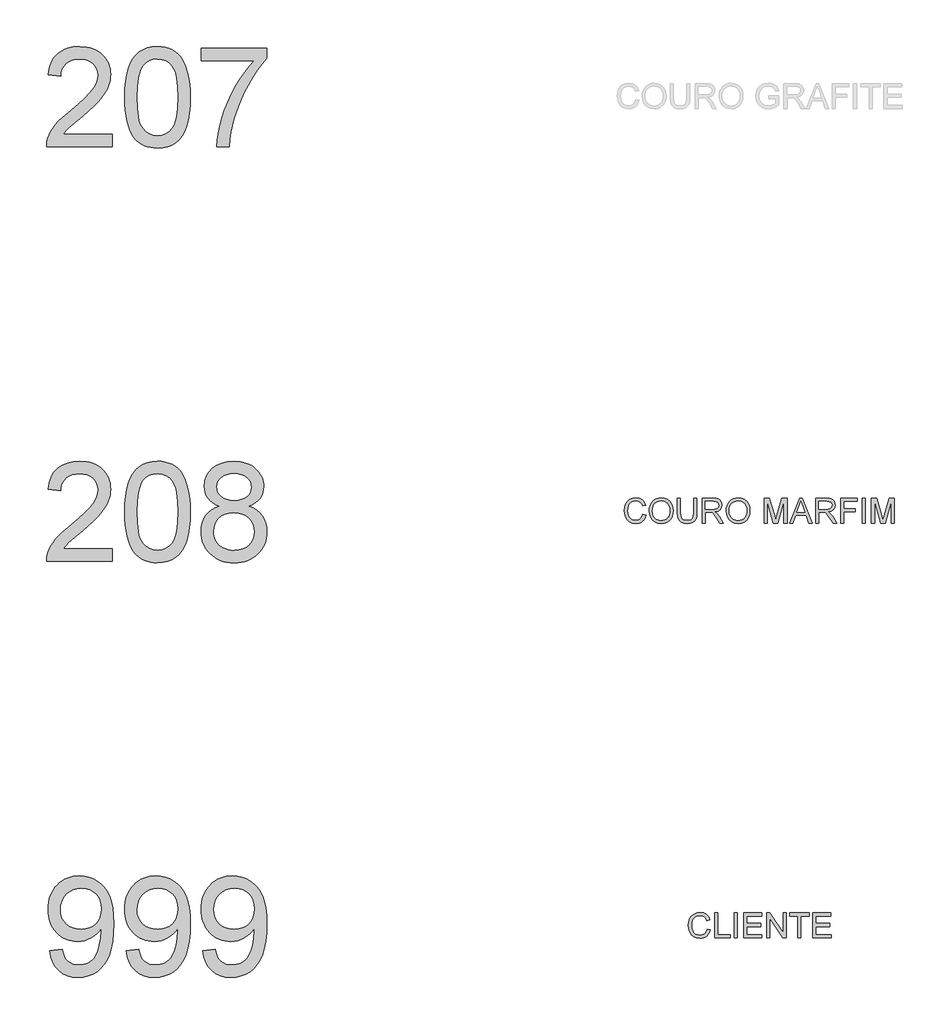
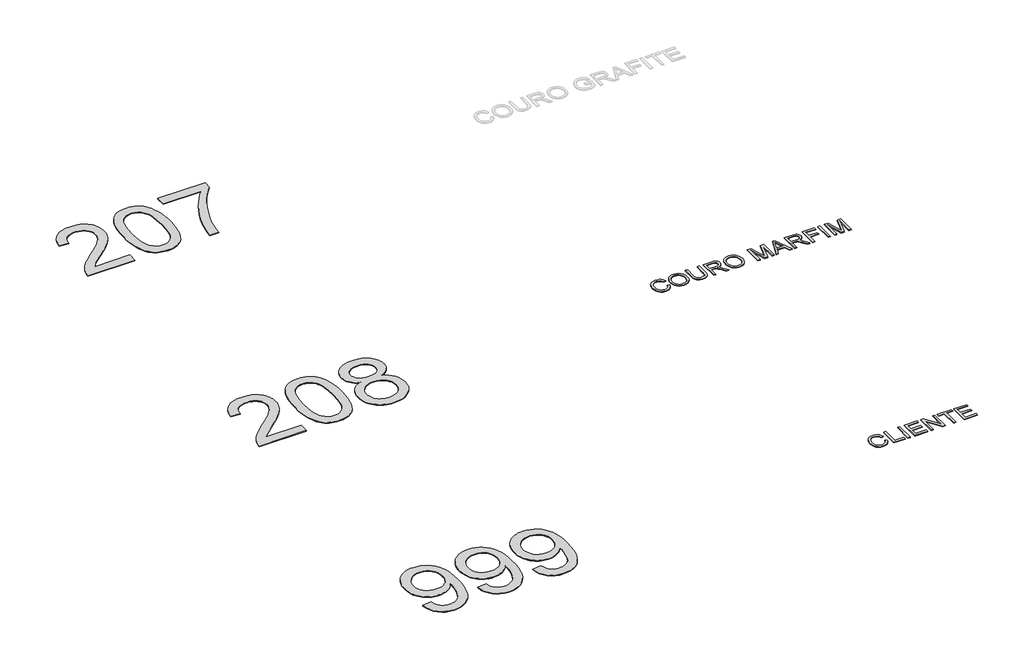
# One storey, part 1 of 39: 5 proxies.
"""IFC4 building model written with IfcOpenShell, lengths in millimetres."""

from ifc_helpers import new_model, si_unit, origin, origin_with_axes, place, context, project, spatial, polyline, outline, extrude, element, save

model = new_model("IFC4")

# Units and contexts
model_context = context("Model", 3, world=origin())
ifc_project = project(units=[si_unit("LENGTHUNIT", "METRE", prefix="MILLI")], contexts=[model_context])

# Site, building, storey
site = spatial("IfcSite", under=ifc_project)
building = spatial("IfcBuilding", under=site)
storey = spatial("IfcBuildingStorey", under=building, Name="Marelli - Linha PROFIT - Planta Baixa", Elevation=0.0)

# Proxies
placement = place(None, origin())
element("IfcBuildingElementProxy", 1, Name="1200mm Arial", ObjectType="1200mm Arial", at=placement, inside=storey, context=model_context, shape_type="SweptSolid", body=[
    extrude(outline(polyline([(-24408.8734949, -164838.133975), (-24408.8734949, -164988.8184403), (-25199.9669374, -164988.8184403), (-25196.6559994, -164935.7698566), (-25183.7801296, -164884.9285648), (-25167.3541985, -164844.029284), (-25146.6240481, -164803.7370085), (-25121.5896783, -164764.0517383), (-25092.2510892, -164724.9734733), (-25056.8424471, -164684.9755034), (-25013.5979186, -164642.5311182), (-24903.601202, -164550.303102), (-24814.169089, -164473.3605827), (-24740.9973602, -164405.8726307), (-24684.0860155, -164347.839246), (-24643.4350551, -164299.2604285), (-24614.9793827, -164255.7032003), (-24594.6539025, -164212.7345832), (-24582.4586144, -164170.3545774), (-24578.3935183, -164128.5631827), (-24582.2286881, -164089.2457945), (-24593.7341975, -164053.1105855), (-24612.9100465, -164020.1575558), (-24639.7562351, -163990.3867054), (-24672.7828412, -163965.7294146), (-24710.4999428, -163948.1170641), (-24752.9075398, -163937.5496538), (-24800.0056322, -163934.0271837), (-24849.6237163, -163937.4668803), (-24893.999482, -163947.7859703), (-24933.1329292, -163964.9844536), (-24967.024058, -163989.0623302), (-24994.4404637, -164019.2102597), (-25014.1497416, -164054.6189017), (-25026.1518917, -164095.2882563), (-25030.446914, -164141.2183234), (-25181.1313792, -164122.3827652), (-25168.1727359, -164044.5941173), (-25157.7133909, -164009.3832119), (-25144.6006971, -163976.6279187), (-25128.8346543, -163946.3282379), (-25110.4152627, -163918.4841694), (-25089.3425221, -163893.0957132), (-25065.6164327, -163870.1628693), (-25039.4945118, -163849.8143965), (-25011.2342768, -163832.1790533), (-24980.8357277, -163817.2568399), (-24948.2988645, -163805.0477562), (-24876.8101957, -163788.7689779), (-24796.7682706, -163783.3427185), (-24716.0089757, -163789.3759832), (-24678.9609595, -163796.9175641), (-24644.1340308, -163807.4757774), (-24611.5281898, -163821.050623), (-24581.1434362, -163837.642101), (-24552.9797702, -163857.2502113), (-24527.0371918, -163879.874954), (-24503.7571593, -163904.7345798), (-24483.5811311, -163931.0473395), (-24466.5091073, -163958.8132331), (-24452.5410878, -163988.0322606), (-24441.6770726, -164018.7044219), (-24433.9170618, -164050.8297172), (-24429.2610552, -164084.4081463), (-24427.7090531, -164119.4397093), (-24429.3829162, -164155.6301005), (-24434.4045054, -164191.5077921), (-24442.7738208, -164227.072784), (-24454.4908623, -164262.3250762), (-24470.098256, -164297.880871), (-24490.1386277, -164334.3563708), (-24543.5183052, -164410.0664855), (-24580.3524899, -164452.0510182), (-24628.6094106, -164500.4550917), (-24759.3914599, -164616.5218611), (-24932.7374561, -164761.4673672), (-24970.334996, -164799.6903065), (-25000.7220488, -164838.133975), (-24408.8734949, -164838.133975)])), origin_with_axes(), (0.0, 0.0, 1.0), 10.0),
    extrude(outline(polyline([(-24258.1890297, -164395.792664), (-24255.4207177, -164294.4319773), (-24247.1157816, -164202.8385576), (-24233.2742216, -164121.0124048), (-24213.8960375, -164048.953519), (-24189.0640028, -163986.073289), (-24158.860891, -163931.7831035), (-24123.2867021, -163886.0829627), (-24082.341436, -163848.9728664), (-24035.8871371, -163820.2596767), (-23983.7858495, -163799.7502555), (-23926.0375733, -163787.4446027), (-23862.6423085, -163783.3427185), (-23815.0015901, -163785.7707396), (-23769.7888929, -163793.0548031), (-23727.0042169, -163805.194909), (-23686.647562, -163822.1910572), (-23649.6938156, -163843.7581391), (-23617.1178649, -163869.6110463), (-23588.91971, -163899.7497788), (-23565.0993508, -163934.1743365), (-23544.4611709, -163972.7467637), (-23525.8095537, -164015.3291046), (-23494.4660077, -164112.5235278), (-23482.4914488, -164169.6831928), (-23473.9381924, -164235.9479371), (-23468.8062386, -164311.3177609), (-23467.0955873, -164395.792664), (-23469.8363081, -164496.5095573), (-23478.0584707, -164587.6431245), (-23491.7620751, -164669.1933658), (-23510.9471211, -164741.1602811), (-23535.5860177, -164804.0681023), (-23565.6511738, -164858.4410612), (-23601.1425893, -164904.2791578), (-23642.0602642, -164941.5823921), (-23688.5697454, -164970.4887199), (-23740.8365799, -164991.1360968), (-23798.8607676, -165003.524523), (-23862.6423085, -165007.6539984), (-23905.3166199, -165005.8605737), (-23945.6364866, -165000.4802995), (-23983.6019085, -164991.5131759), (-24019.2128856, -164978.9592028), (-24052.469418, -164962.8183803), (-24083.3715056, -164943.0907083), (-24111.9191484, -164919.7761868), (-24138.1123465, -164892.8748159), (-24166.2553191, -164850.2786794), (-24190.6458954, -164802.0999336), (-24211.2840753, -164748.3385785), (-24228.1698589, -164688.9946142), (-24241.3032461, -164624.0680406), (-24250.684237, -164553.5588577), (-24256.3128315, -164477.4670655), (-24258.1890297, -164395.792664)]), holes=[polyline([(-24107.5045645, -164395.4983584), (-24103.0899805, -164526.4919399), (-24089.8462287, -164632.5247279), (-24079.9134148, -164676.1808245), (-24067.773309, -164713.5967226), (-24053.4259112, -164744.7724225), (-24036.8712214, -164769.7079239), (-23999.4944107, -164807.884878), (-23957.9973216, -164835.1541309), (-23912.3799542, -164851.5156826), (-23862.6423085, -164856.9695332), (-23812.9046627, -164851.4972885), (-23767.2872953, -164835.0805545), (-23725.7902063, -164807.7193311), (-23688.4133956, -164769.4136183), (-23671.8587058, -164744.418336), (-23657.511308, -164713.2104465), (-23645.3712021, -164675.7899498), (-23635.4383883, -164632.1568459), (-23622.1946364, -164526.2528166), (-23617.7800525, -164395.4983584), (-23622.0474836, -164267.9720648), (-23634.8497771, -164163.8062779), (-23644.4514972, -164120.4835744), (-23656.1869328, -164083.0009976), (-23670.056084, -164051.3585475), (-23686.0589508, -164025.5562241), (-23722.8103621, -163985.5122689), (-23764.7856978, -163956.9094438), (-23811.9849578, -163939.7477487), (-23864.4081421, -163934.0271837), (-23913.8882704, -163939.067167), (-23958.7330856, -163954.187117), (-23998.9425877, -163979.3870337), (-24034.5167766, -164014.666917), (-24051.6232894, -164043.2145599), (-24066.4489338, -164077.2068562), (-24078.9937099, -164116.6438061), (-24089.2576175, -164161.5254095), (-24102.9428277, -164267.6225769), (-24107.5045645, -164395.4983584)])]), origin_with_axes(), (0.0, 0.0, 1.0), 10.0),
    extrude(outline(polyline([(-23335.2466802, -163952.8627418), (-23335.2466802, -163802.1782766), (-22544.1532378, -163802.1782766), (-22544.1532378, -163924.0207934), (-22600.6691093, -163990.5246611), (-22656.9090693, -164066.7222194), (-22712.8731178, -164152.6134682), (-22768.5612548, -164248.1984076), (-22820.956848, -164349.3383651), (-22867.0432649, -164451.8946683), (-22906.8205057, -164555.8673172), (-22940.2885702, -164661.2563118), (-22960.2277743, -164737.7941609), (-22976.1938529, -164817.9004653), (-22988.186806, -164901.5752251), (-22996.2066334, -164988.8184403), (-23146.8910987, -164988.8184403), (-23142.154618, -164914.8189769), (-23130.5939263, -164833.4986619), (-23112.2090236, -164744.8574952), (-23086.9999099, -164648.8954767), (-23055.2608907, -164550.1651463), (-23017.2862718, -164453.2190435), (-22973.076053, -164358.0571684), (-22922.6302344, -164264.679521), (-22868.2204873, -164175.8268221), (-22812.1184831, -164094.2397926), (-22754.3242216, -164019.9184325), (-22694.837703, -163952.8627418), (-23335.2466802, -163952.8627418)])), origin_with_axes(), (0.0, 0.0, 1.0), 10.0),
])
element("IfcBuildingElementProxy", 2, Name="1200mm Arial", ObjectType="1200mm Arial", at=placement, inside=storey, context=model_context, shape_type="SweptSolid", body=[
    extrude(outline(polyline([(-24408.8734949, -169838.133975), (-24408.8734949, -169988.8184403), (-25199.9669374, -169988.8184403), (-25196.6559994, -169935.7698566), (-25183.7801296, -169884.9285648), (-25167.3541985, -169844.029284), (-25146.6240481, -169803.7370085), (-25121.5896783, -169764.0517383), (-25092.2510892, -169724.9734733), (-25056.8424471, -169684.9755034), (-25013.5979186, -169642.5311182), (-24903.601202, -169550.303102), (-24814.169089, -169473.3605827), (-24740.9973602, -169405.8726307), (-24684.0860155, -169347.839246), (-24643.4350551, -169299.2604285), (-24614.9793827, -169255.7032003), (-24594.6539025, -169212.7345832), (-24582.4586144, -169170.3545774), (-24578.3935183, -169128.5631827), (-24582.2286881, -169089.2457945), (-24593.7341975, -169053.1105855), (-24612.9100465, -169020.1575558), (-24639.7562351, -168990.3867054), (-24672.7828412, -168965.7294146), (-24710.4999428, -168948.1170641), (-24752.9075398, -168937.5496538), (-24800.0056322, -168934.0271837), (-24849.6237163, -168937.4668803), (-24893.999482, -168947.7859703), (-24933.1329292, -168964.9844536), (-24967.024058, -168989.0623302), (-24994.4404637, -169019.2102597), (-25014.1497416, -169054.6189017), (-25026.1518917, -169095.2882563), (-25030.446914, -169141.2183234), (-25181.1313792, -169122.3827652), (-25168.1727359, -169044.5941173), (-25157.7133909, -169009.3832119), (-25144.6006971, -168976.6279187), (-25128.8346543, -168946.3282379), (-25110.4152627, -168918.4841694), (-25089.3425221, -168893.0957132), (-25065.6164327, -168870.1628693), (-25039.4945118, -168849.8143965), (-25011.2342768, -168832.1790533), (-24980.8357277, -168817.2568399), (-24948.2988645, -168805.0477562), (-24876.8101957, -168788.7689779), (-24796.7682706, -168783.3427185), (-24716.0089757, -168789.3759832), (-24678.9609595, -168796.9175641), (-24644.1340308, -168807.4757774), (-24611.5281898, -168821.050623), (-24581.1434362, -168837.642101), (-24552.9797702, -168857.2502113), (-24527.0371918, -168879.874954), (-24503.7571593, -168904.7345798), (-24483.5811311, -168931.0473395), (-24466.5091073, -168958.8132331), (-24452.5410878, -168988.0322606), (-24441.6770726, -169018.7044219), (-24433.9170618, -169050.8297172), (-24429.2610552, -169084.4081463), (-24427.7090531, -169119.4397093), (-24429.3829162, -169155.6301005), (-24434.4045054, -169191.5077921), (-24442.7738208, -169227.072784), (-24454.4908623, -169262.3250762), (-24470.098256, -169297.880871), (-24490.1386277, -169334.3563708), (-24543.5183052, -169410.0664855), (-24580.3524899, -169452.0510182), (-24628.6094106, -169500.4550917), (-24759.3914599, -169616.5218611), (-24932.7374561, -169761.4673672), (-24970.334996, -169799.6903065), (-25000.7220488, -169838.133975), (-24408.8734949, -169838.133975)])), origin_with_axes(), (0.0, 0.0, 1.0), 10.0),
    extrude(outline(polyline([(-24258.1890297, -169395.792664), (-24255.4207177, -169294.4319773), (-24247.1157816, -169202.8385576), (-24233.2742216, -169121.0124048), (-24213.8960375, -169048.953519), (-24189.0640028, -168986.073289), (-24158.860891, -168931.7831035), (-24123.2867021, -168886.0829627), (-24082.341436, -168848.9728664), (-24035.8871371, -168820.2596767), (-23983.7858495, -168799.7502555), (-23926.0375733, -168787.4446027), (-23862.6423085, -168783.3427185), (-23815.0015901, -168785.7707396), (-23769.7888929, -168793.0548031), (-23727.0042169, -168805.194909), (-23686.647562, -168822.1910572), (-23649.6938156, -168843.7581391), (-23617.1178649, -168869.6110463), (-23588.91971, -168899.7497788), (-23565.0993508, -168934.1743365), (-23544.4611709, -168972.7467637), (-23525.8095537, -169015.3291046), (-23494.4660077, -169112.5235278), (-23482.4914488, -169169.6831928), (-23473.9381924, -169235.9479371), (-23468.8062386, -169311.3177609), (-23467.0955873, -169395.792664), (-23469.8363081, -169496.5095573), (-23478.0584707, -169587.6431245), (-23491.7620751, -169669.1933658), (-23510.9471211, -169741.1602811), (-23535.5860177, -169804.0681023), (-23565.6511738, -169858.4410612), (-23601.1425893, -169904.2791578), (-23642.0602642, -169941.5823921), (-23688.5697454, -169970.4887199), (-23740.8365799, -169991.1360968), (-23798.8607676, -170003.524523), (-23862.6423085, -170007.6539984), (-23905.3166199, -170005.8605737), (-23945.6364866, -170000.4802995), (-23983.6019085, -169991.5131759), (-24019.2128856, -169978.9592028), (-24052.469418, -169962.8183803), (-24083.3715056, -169943.0907083), (-24111.9191484, -169919.7761868), (-24138.1123465, -169892.8748159), (-24166.2553191, -169850.2786794), (-24190.6458954, -169802.0999336), (-24211.2840753, -169748.3385785), (-24228.1698589, -169688.9946142), (-24241.3032461, -169624.0680406), (-24250.684237, -169553.5588577), (-24256.3128315, -169477.4670655), (-24258.1890297, -169395.792664)]), holes=[polyline([(-24107.5045645, -169395.4983584), (-24103.0899805, -169526.4919399), (-24089.8462287, -169632.5247279), (-24079.9134148, -169676.1808245), (-24067.773309, -169713.5967226), (-24053.4259112, -169744.7724225), (-24036.8712214, -169769.7079239), (-23999.4944107, -169807.884878), (-23957.9973216, -169835.1541309), (-23912.3799542, -169851.5156826), (-23862.6423085, -169856.9695332), (-23812.9046627, -169851.4972885), (-23767.2872953, -169835.0805545), (-23725.7902063, -169807.7193311), (-23688.4133956, -169769.4136183), (-23671.8587058, -169744.418336), (-23657.511308, -169713.2104465), (-23645.3712021, -169675.7899498), (-23635.4383883, -169632.1568459), (-23622.1946364, -169526.2528166), (-23617.7800525, -169395.4983584), (-23622.0474836, -169267.9720648), (-23634.8497771, -169163.8062779), (-23644.4514972, -169120.4835744), (-23656.1869328, -169083.0009976), (-23670.056084, -169051.3585475), (-23686.0589508, -169025.5562241), (-23722.8103621, -168985.5122689), (-23764.7856978, -168956.9094438), (-23811.9849578, -168939.7477487), (-23864.4081421, -168934.0271837), (-23913.8882704, -168939.067167), (-23958.7330856, -168954.187117), (-23998.9425877, -168979.3870337), (-24034.5167766, -169014.666917), (-24051.6232894, -169043.2145599), (-24066.4489338, -169077.2068562), (-24078.9937099, -169116.6438061), (-24089.2576175, -169161.5254095), (-24102.9428277, -169267.6225769), (-24107.5045645, -169395.4983584)])]), origin_with_axes(), (0.0, 0.0, 1.0), 10.0),
    extrude(outline(polyline([(-23115.6947055, -169324.8650154), (-23159.0404016, -169306.7652212), (-23196.371227, -169285.1337599), (-23227.6871819, -169259.9706314), (-23252.9882661, -169231.2758358), (-23272.4952089, -169199.3252845), (-23286.4287394, -169164.3948891), (-23294.7888578, -169126.4846495), (-23297.5755639, -169085.5945657), (-23291.505511, -169024.1398784), (-23283.9179448, -168995.3301197), (-23273.2953522, -168967.7987509), (-23259.6377331, -168941.545772), (-23242.9450876, -168916.571183), (-23200.4547172, -168870.4571749), (-23175.1674285, -168850.0397242), (-23147.865986, -168832.3446002), (-23118.5503895, -168817.371803), (-23087.2206391, -168805.1213326), (-23018.5186765, -168788.787372), (-22941.7600982, -168783.3427185), (-22864.6336379, -168788.9161307), (-22795.4166405, -168805.6363674), (-22763.7741904, -168818.1765449), (-22734.109106, -168833.5034285), (-22706.4213873, -168851.6170182), (-22680.7110344, -168872.5173141), (-22637.4481118, -168919.5326331), (-22620.4519636, -168944.8613085), (-22606.5460242, -168971.4039944), (-22595.7302935, -168999.1606909), (-22588.0047716, -169028.1313981), (-22583.3694585, -169058.3161158), (-22581.8243541, -169089.7148441), (-22584.574272, -169129.160991), (-22592.8240257, -169165.9767817), (-22606.5736153, -169200.1622161), (-22625.8230407, -169231.7172942), (-22650.6642724, -169260.2189518), (-22681.189281, -169285.2441245), (-22717.3980664, -169306.7928124), (-22759.2906286, -169324.8650154), (-22709.764515, -169345.9354566), (-22666.5475776, -169372.6528865), (-22629.6398164, -169405.0173051), (-22599.0412315, -169443.0287122), (-22575.0277342, -169485.8409794), (-22557.8752362, -169532.607978), (-22547.5837374, -169583.3297081), (-22544.1532378, -169638.0061697), (-22545.854692, -169676.3670647), (-22550.9590547, -169713.1644613), (-22559.4663258, -169748.3983594), (-22571.3765054, -169782.068759), (-22586.6895935, -169814.1756601), (-22605.40559, -169844.7190628), (-22627.5244949, -169873.6989669), (-22653.0463083, -169901.1153726), (-22681.3456308, -169926.085363), (-22711.797063, -169947.7260214), (-22744.4006048, -169966.0373477), (-22779.1562563, -169981.019342), (-22816.0640175, -169992.6720042), (-22855.1238883, -170000.9953343), (-22896.3358688, -170005.9893324), (-22939.699959, -170007.6539984), (-22983.0640492, -170005.9824346), (-23024.2760297, -170000.9677432), (-23063.3359005, -169992.6099241), (-23100.2436617, -169980.9089774), (-23134.9993132, -169965.864903), (-23167.602855, -169947.4777011), (-23198.0542872, -169925.7473715), (-23226.3536096, -169900.6739142), (-23251.875423, -169873.1034579), (-23273.994328, -169843.8821312), (-23292.7103245, -169813.009934), (-23308.0234126, -169780.4868664), (-23319.9335922, -169746.3129283), (-23328.4408633, -169710.4881198), (-23333.545226, -169673.0124408), (-23335.2466802, -169633.8858913), (-23331.6782249, -169576.7170293), (-23320.9728588, -169524.4042096), (-23303.130582, -169476.9474322), (-23278.1513946, -169434.3466971), (-23246.5871194, -169397.3745566), (-23208.9895795, -169366.8035628), (-23165.3587748, -169342.6337157), (-23115.6947055, -169324.8650154)]), holes=[polyline([(-23146.8910987, -169090.0091496), (-23143.5525696, -169124.553269), (-23133.5369822, -169155.7864504), (-23116.8443367, -169183.7086938), (-23093.474633, -169208.3199993), (-23063.7221766, -169228.4063562), (-23027.8812732, -169242.753754), (-22985.9519228, -169251.3621927), (-22937.9341254, -169254.2316723), (-22891.1027474, -169251.3805868), (-22850.083905, -169242.8273304), (-22814.877598, -169228.5719031), (-22785.4838266, -169208.6143049), (-22762.3072609, -169184.5180342), (-22745.7525711, -169157.8465896), (-22735.8197573, -169128.5999709), (-22732.5088193, -169096.7781784), (-22735.9301219, -169063.714784), (-22746.1940295, -169033.3921106), (-22763.3005423, -169005.810158), (-22787.2496602, -168980.9689263), (-22817.3056192, -168960.4319139), (-22852.7326553, -168945.7626193), (-22893.5307686, -168936.9610426), (-22939.699959, -168934.0271837), (-22986.2278343, -168936.8966633), (-23027.2190856, -168945.5051019), (-23062.6737129, -168959.8524998), (-23092.5917162, -168979.9388567), (-23116.347696, -169004.0351274), (-23133.3162531, -169030.4122664), (-23143.4973873, -169059.0702739), (-23146.8910987, -169090.0091496)]), polyline([(-23184.562215, -169628.5883906), (-23182.9895195, -169657.6418712), (-23178.2714329, -169686.2354992), (-23159.3990865, -169742.0431979), (-23144.3986982, -169767.9328933), (-23124.5606616, -169790.7139859), (-23099.8849767, -169810.3864756), (-23070.3716437, -169826.9503624), (-23038.1819691, -169840.0837496), (-23005.4772597, -169849.4647405), (-22972.2575156, -169855.093335), (-22938.5227366, -169856.9695332), (-22884.0394131, -169853.0239988), (-22835.9572364, -169841.1873956), (-22794.2762063, -169821.4597236), (-22758.996323, -169793.8409828), (-22730.9269267, -169760.133795), (-22710.877358, -169722.140782), (-22698.8476167, -169679.8619437), (-22694.837703, -169633.2972801), (-22698.9763754, -169585.9876555), (-22711.3923928, -169542.9454621), (-22732.085755, -169504.1706998), (-22761.0564621, -169469.6633687), (-22797.2928387, -169441.336455), (-22839.7832091, -169421.1029453), (-22888.5275735, -169408.9628395), (-22943.5259317, -169404.9161375), (-22997.2091119, -169408.9076572), (-23044.6566922, -169420.8822161), (-23085.8686727, -169440.8398143), (-23120.8450534, -169468.7804519), (-23148.7213116, -169502.7175659), (-23168.6329246, -169540.6645937), (-23180.5798924, -169582.6215353), (-23184.562215, -169628.5883906)])]), origin_with_axes(), (0.0, 0.0, 1.0), 10.0),
])
element("IfcBuildingElementProxy", 3, Name="1200mm Arial", ObjectType="1200mm Arial", at=placement, inside=storey, context=model_context, shape_type="SweptSolid", body=[
    extrude(outline(polyline([(-25162.2958211, -174687.4495098), (-25011.6113558, -174668.6139517), (-25000.758837, -174714.7923391), (-24985.8596162, -174754.1465155), (-24966.9136934, -174786.676481), (-24943.9210687, -174812.3822354), (-24917.1392595, -174831.8891782), (-24886.8257831, -174845.8227087), (-24852.9806395, -174854.1828271), (-24815.6038288, -174856.9695332), (-24782.9267106, -174855.1761085), (-24751.7027262, -174849.7958343), (-24721.9318758, -174840.8287107), (-24693.6141592, -174828.2747376), (-24667.7520549, -174812.7225262), (-24645.3480414, -174794.7606878), (-24626.4021187, -174774.3892223), (-24610.9142867, -174751.6081298), (-24584.8314532, -174694.8807261), (-24561.6180993, -174620.6421395), (-24545.2841387, -174535.4406694), (-24539.8394852, -174445.8246154), (-24540.722402, -174416.3940558), (-24564.8094756, -174449.9081055), (-24592.9248571, -174480.1112173), (-24625.0685464, -174507.0033912), (-24661.2405436, -174530.5846271), (-24700.208444, -174549.7696731), (-24740.7398428, -174563.4732774), (-24782.8347401, -174571.69544), (-24826.4931359, -174574.4361609), (-24863.0031246, -174572.7622978), (-24898.0737751, -174567.7407086), (-24931.7050872, -174559.3713932), (-24963.8970611, -174547.6543516), (-24994.6496966, -174532.5895839), (-25023.9629938, -174514.1770901), (-25051.8369527, -174492.4168701), (-25078.2715734, -174467.3089239), (-25102.3793403, -174439.4648554), (-25123.2727384, -174409.4962684), (-25140.9517675, -174377.4031628), (-25155.4164277, -174343.1855387), (-25166.666719, -174306.8433961), (-25174.7026413, -174268.376735), (-25179.5241947, -174227.7855554), (-25181.1313792, -174185.0698572), (-25179.4460198, -174140.9240178), (-25174.3899416, -174098.9854703), (-25165.9631447, -174059.2542149), (-25154.165629, -174021.7302513), (-25138.9973944, -173986.4135798), (-25120.4584411, -173953.3042002), (-25098.5487691, -173922.4021126), (-25073.2683782, -173893.707317), (-25045.4496016, -173867.8406142), (-25015.9247722, -173845.4228052), (-24984.6938901, -173826.4538898), (-24951.7569552, -173810.9338681), (-24917.1139676, -173798.8627401), (-24880.7649272, -173790.2405059), (-24842.7098341, -173785.0671653), (-24802.9486882, -173783.3427185), (-24745.4947176, -173787.2790558), (-24690.5607386, -173799.0880679), (-24638.1467514, -173818.7697546), (-24588.2527558, -173846.324116), (-24542.5434179, -173881.162541), (-24502.6834037, -173922.6964182), (-24468.6727132, -173970.9257478), (-24440.5113465, -174025.8505297), (-24418.4292298, -174090.634549), (-24402.6562892, -174168.441591), (-24393.1925249, -174259.2716556), (-24390.0379368, -174363.1247429), (-24393.1833278, -174472.1925574), (-24402.619501, -174569.5433304), (-24418.3464563, -174655.1770618), (-24440.3641937, -174729.0937517), (-24468.5899398, -174793.0960218), (-24502.9409211, -174848.9864939), (-24543.4171376, -174896.765168), (-24590.0185894, -174936.4320442), (-24641.8071772, -174967.5916491), (-24697.8448021, -174989.8485099), (-24758.1314641, -175003.2026263), (-24822.6671631, -175007.6539984), (-24890.3390561, -175002.4024829), (-24951.4994378, -174986.6479365), (-25006.1483082, -174960.3903591), (-25054.2856673, -174923.6297507), (-25094.6975044, -174877.3593928), (-25126.1698091, -174822.5725666), (-25148.7025813, -174759.2692723), (-25162.2958211, -174687.4495098)]), holes=[polyline([(-24540.722402, -174181.53819), (-24544.787498, -174127.5331132), (-24556.9827862, -174079.4141482), (-24577.3082664, -174037.1812951), (-24605.7639387, -174000.834554), (-24640.9518516, -173971.6063295), (-24681.4740534, -173950.7290263), (-24727.3305441, -173938.2026443), (-24778.5213237, -173934.0271837), (-24831.3491782, -173938.5245411), (-24879.1738376, -173952.0166133), (-24921.9953018, -173974.5034002), (-24959.8135709, -174005.984902), (-24990.7156585, -174044.6217085), (-25012.7885782, -174088.5744099), (-25026.03233, -174137.8430061), (-25030.446914, -174192.4274971), (-25026.2714533, -174241.3833936), (-25013.7450714, -174285.5384301), (-24992.8677682, -174324.8926065), (-24963.6395437, -174359.4459229), (-24927.2744084, -174387.5796985), (-24884.9863731, -174407.6752525), (-24836.7754376, -174419.7325849), (-24782.641602, -174423.7516957), (-24732.1589952, -174419.7325849), (-24686.3668839, -174407.6752525), (-24645.265268, -174387.5796985), (-24608.8541475, -174359.4459229), (-24579.0465088, -174324.2120248), (-24557.7553384, -174282.8161033), (-24544.9806361, -174235.2581584), (-24540.722402, -174181.53819)])]), origin_with_axes(), (0.0, 0.0, 1.0), 10.0),
    extrude(outline(polyline([(-24239.3534716, -174687.4495098), (-24088.6690063, -174668.6139517), (-24077.8164875, -174714.7923391), (-24062.9172667, -174754.1465155), (-24043.9713439, -174786.676481), (-24020.9787192, -174812.3822354), (-23994.19691, -174831.8891782), (-23963.8834336, -174845.8227087), (-23930.03829, -174854.1828271), (-23892.6614793, -174856.9695332), (-23859.9843611, -174855.1761085), (-23828.7603767, -174849.7958343), (-23798.9895263, -174840.8287107), (-23770.6718097, -174828.2747376), (-23744.8097054, -174812.7225262), (-23722.4056919, -174794.7606878), (-23703.4597692, -174774.3892223), (-23687.9719372, -174751.6081298), (-23661.8891037, -174694.8807261), (-23638.6757498, -174620.6421395), (-23622.3417892, -174535.4406694), (-23616.8971357, -174445.8246154), (-23617.7800525, -174416.3940558), (-23641.8671261, -174449.9081055), (-23669.9825076, -174480.1112173), (-23702.1261969, -174507.0033912), (-23738.2981941, -174530.5846271), (-23777.2660945, -174549.7696731), (-23817.7974933, -174563.4732774), (-23859.8923906, -174571.69544), (-23903.5507864, -174574.4361609), (-23940.0607751, -174572.7622978), (-23975.1314256, -174567.7407086), (-24008.7627377, -174559.3713932), (-24040.9547116, -174547.6543516), (-24071.7073471, -174532.5895839), (-24101.0206443, -174514.1770901), (-24128.8946032, -174492.4168701), (-24155.3292239, -174467.3089239), (-24179.4369908, -174439.4648554), (-24200.3303889, -174409.4962684), (-24218.009418, -174377.4031628), (-24232.4740782, -174343.1855387), (-24243.7243695, -174306.8433961), (-24251.7602918, -174268.376735), (-24256.5818452, -174227.7855554), (-24258.1890297, -174185.0698572), (-24256.5036703, -174140.9240178), (-24251.4475921, -174098.9854703), (-24243.0207952, -174059.2542149), (-24231.2232795, -174021.7302513), (-24216.0550449, -173986.4135798), (-24197.5160916, -173953.3042002), (-24175.6064196, -173922.4021126), (-24150.3260287, -173893.707317), (-24122.5072521, -173867.8406142), (-24092.9824227, -173845.4228052), (-24061.7515406, -173826.4538898), (-24028.8146057, -173810.9338681), (-23994.1716181, -173798.8627401), (-23957.8225777, -173790.2405059), (-23919.7674846, -173785.0671653), (-23880.0063387, -173783.3427185), (-23822.5523681, -173787.2790558), (-23767.6183891, -173799.0880679), (-23715.2044019, -173818.7697546), (-23665.3104063, -173846.324116), (-23619.6010684, -173881.162541), (-23579.7410542, -173922.6964182), (-23545.7303637, -173970.9257478), (-23517.568997, -174025.8505297), (-23495.4868803, -174090.634549), (-23479.7139397, -174168.441591), (-23470.2501754, -174259.2716556), (-23467.0955873, -174363.1247429), (-23470.2409783, -174472.1925574), (-23479.6771515, -174569.5433304), (-23495.4041068, -174655.1770618), (-23517.4218442, -174729.0937517), (-23545.6475903, -174793.0960218), (-23579.9985716, -174848.9864939), (-23620.4747881, -174896.765168), (-23667.0762399, -174936.4320442), (-23718.8648277, -174967.5916491), (-23774.9024526, -174989.8485099), (-23835.1891146, -175003.2026263), (-23899.7248136, -175007.6539984), (-23967.3967066, -175002.4024829), (-24028.5570883, -174986.6479365), (-24083.2059587, -174960.3903591), (-24131.3433178, -174923.6297507), (-24171.7551549, -174877.3593928), (-24203.2274596, -174822.5725666), (-24225.7602318, -174759.2692723), (-24239.3534716, -174687.4495098)]), holes=[polyline([(-23617.7800525, -174181.53819), (-23621.8451485, -174127.5331132), (-23634.0404367, -174079.4141482), (-23654.3659169, -174037.1812951), (-23682.8215892, -174000.834554), (-23718.0095021, -173971.6063295), (-23758.5317039, -173950.7290263), (-23804.3881946, -173938.2026443), (-23855.5789742, -173934.0271837), (-23908.4068287, -173938.5245411), (-23956.2314881, -173952.0166133), (-23999.0529523, -173974.5034002), (-24036.8712214, -174005.984902), (-24067.773309, -174044.6217085), (-24089.8462287, -174088.5744099), (-24103.0899805, -174137.8430061), (-24107.5045645, -174192.4274971), (-24103.3291038, -174241.3833936), (-24090.8027219, -174285.5384301), (-24069.9254187, -174324.8926065), (-24040.6971942, -174359.4459229), (-24004.3320589, -174387.5796985), (-23962.0440236, -174407.6752525), (-23913.8330881, -174419.7325849), (-23859.6992525, -174423.7516957), (-23809.2166457, -174419.7325849), (-23763.4245344, -174407.6752525), (-23722.3229185, -174387.5796985), (-23685.911798, -174359.4459229), (-23656.1041593, -174324.2120248), (-23634.8129889, -174282.8161033), (-23622.0382866, -174235.2581584), (-23617.7800525, -174181.53819)])]), origin_with_axes(), (0.0, 0.0, 1.0), 10.0),
    extrude(outline(polyline([(-23316.4111221, -174687.4495098), (-23165.7266568, -174668.6139517), (-23154.874138, -174714.7923391), (-23139.9749172, -174754.1465155), (-23121.0289944, -174786.676481), (-23098.0363697, -174812.3822354), (-23071.2545605, -174831.8891782), (-23040.9410841, -174845.8227087), (-23007.0959405, -174854.1828271), (-22969.7191298, -174856.9695332), (-22937.0420116, -174855.1761085), (-22905.8180272, -174849.7958343), (-22876.0471768, -174840.8287107), (-22847.7294602, -174828.2747376), (-22821.8673559, -174812.7225262), (-22799.4633424, -174794.7606878), (-22780.5174197, -174774.3892223), (-22765.0295877, -174751.6081298), (-22738.9467542, -174694.8807261), (-22715.7334003, -174620.6421395), (-22699.3994397, -174535.4406694), (-22693.9547862, -174445.8246154), (-22694.837703, -174416.3940558), (-22718.9247766, -174449.9081055), (-22747.0401581, -174480.1112173), (-22779.1838474, -174507.0033912), (-22815.3558446, -174530.5846271), (-22854.323745, -174549.7696731), (-22894.8551438, -174563.4732774), (-22936.9500411, -174571.69544), (-22980.6084369, -174574.4361609), (-23017.1184256, -174572.7622978), (-23052.1890761, -174567.7407086), (-23085.8203882, -174559.3713932), (-23118.0123621, -174547.6543516), (-23148.7649976, -174532.5895839), (-23178.0782948, -174514.1770901), (-23205.9522537, -174492.4168701), (-23232.3868744, -174467.3089239), (-23256.4946413, -174439.4648554), (-23277.3880394, -174409.4962684), (-23295.0670685, -174377.4031628), (-23309.5317287, -174343.1855387), (-23320.78202, -174306.8433961), (-23328.8179423, -174268.376735), (-23333.6394957, -174227.7855554), (-23335.2466802, -174185.0698572), (-23333.5613208, -174140.9240178), (-23328.5052426, -174098.9854703), (-23320.0784457, -174059.2542149), (-23308.28093, -174021.7302513), (-23293.1126954, -173986.4135798), (-23274.5737422, -173953.3042002), (-23252.6640701, -173922.4021126), (-23227.3836792, -173893.707317), (-23199.5649026, -173867.8406142), (-23170.0400732, -173845.4228052), (-23138.8091911, -173826.4538898), (-23105.8722562, -173810.9338681), (-23071.2292686, -173798.8627401), (-23034.8802282, -173790.2405059), (-22996.8251351, -173785.0671653), (-22957.0639892, -173783.3427185), (-22899.6100186, -173787.2790558), (-22844.6760396, -173799.0880679), (-22792.2620524, -173818.7697546), (-22742.3680568, -173846.324116), (-22696.6587189, -173881.162541), (-22656.7987047, -173922.6964182), (-22622.7880142, -173970.9257478), (-22594.6266475, -174025.8505297), (-22572.5445308, -174090.634549), (-22556.7715902, -174168.441591), (-22547.3078259, -174259.2716556), (-22544.1532378, -174363.1247429), (-22547.2986288, -174472.1925574), (-22556.734802, -174569.5433304), (-22572.4617573, -174655.1770618), (-22594.4794947, -174729.0937517), (-22622.7052408, -174793.0960218), (-22657.0562221, -174848.9864939), (-22697.5324386, -174896.765168), (-22744.1338904, -174936.4320442), (-22795.9224782, -174967.5916491), (-22851.9601031, -174989.8485099), (-22912.2467651, -175003.2026263), (-22976.7824641, -175007.6539984), (-23044.4543571, -175002.4024829), (-23105.6147388, -174986.6479365), (-23160.2636092, -174960.3903591), (-23208.4009683, -174923.6297507), (-23248.8128054, -174877.3593928), (-23280.2851101, -174822.5725666), (-23302.8178823, -174759.2692723), (-23316.4111221, -174687.4495098)]), holes=[polyline([(-22694.837703, -174181.53819), (-22698.902799, -174127.5331132), (-22711.0980872, -174079.4141482), (-22731.4235674, -174037.1812951), (-22759.8792397, -174000.834554), (-22795.0671526, -173971.6063295), (-22835.5893544, -173950.7290263), (-22881.4458451, -173938.2026443), (-22932.6366247, -173934.0271837), (-22985.4644792, -173938.5245411), (-23033.2891386, -173952.0166133), (-23076.1106028, -173974.5034002), (-23113.9288719, -174005.984902), (-23144.8309595, -174044.6217085), (-23166.9038792, -174088.5744099), (-23180.147631, -174137.8430061), (-23184.562215, -174192.4274971), (-23180.3867543, -174241.3833936), (-23167.8603724, -174285.5384301), (-23146.9830692, -174324.8926065), (-23117.7548447, -174359.4459229), (-23081.3897094, -174387.5796985), (-23039.1016741, -174407.6752525), (-22990.8907386, -174419.7325849), (-22936.756903, -174423.7516957), (-22886.2742962, -174419.7325849), (-22840.4821849, -174407.6752525), (-22799.380569, -174387.5796985), (-22762.9694485, -174359.4459229), (-22733.1618098, -174324.2120248), (-22711.8706394, -174282.8161033), (-22699.0959371, -174235.2581584), (-22694.837703, -174181.53819)])]), origin_with_axes(), (0.0, 0.0, 1.0), 10.0),
])
element("IfcBuildingElementProxy", 4, Name="300mm Arial", ObjectType="300mm Arial", at=placement, inside=storey, context=model_context, shape_type="SweptSolid", body=[
    extrude(outline(polyline([(-18008.3992021, -169423.4390831), (-17970.7280858, -169433.1511677), (-17978.1822947, -169456.5783531), (-17988.1105101, -169477.0486868), (-18000.5127318, -169494.5621691), (-18015.38896, -169509.1187997), (-18032.4035023, -169520.5622291), (-18051.2206664, -169528.7361071), (-18071.8404522, -169533.640434), (-18094.2628598, -169535.2752096), (-18137.9580438, -169530.3271968), (-18172.658513, -169515.4831583), (-18199.2563812, -169491.2581289), (-18218.6437624, -169458.1671434), (-18230.4803656, -169419.2636224), (-18234.4258999, -169377.6009865), (-18229.9653308, -169333.6574821), (-18216.5836232, -169295.7104543), (-18194.979753, -169264.9647166), (-18165.852696, -169242.6250824), (-18131.3085767, -169229.0226457), (-18093.4535194, -169224.4885001), (-18052.1495684, -169230.3562179), (-18034.1808322, -169237.6908652), (-18018.0009222, -169247.9593714), (-18003.8765528, -169260.8904235), (-17992.0744386, -169276.2127086), (-17975.4369753, -169314.0309777), (-18013.1080917, -169323.0072984), (-18026.1679025, -169295.5357104), (-18044.0101792, -169276.6909552), (-18066.8556511, -169265.7924511), (-18094.9250474, -169262.1596164), (-18127.2802689, -169266.1879242), (-18153.859743, -169278.2728478), (-18174.0288734, -169297.1451941), (-18187.1530636, -169321.5357704), (-18194.3543536, -169349.1085259), (-18196.7547836, -169377.5274101), (-18193.9128952, -169412.3290468), (-18185.38723, -169442.421794), (-18170.8558912, -169466.6560205), (-18149.9969821, -169483.8820949), (-18124.9902034, -169494.1735937), (-18098.0152561, -169497.6040933), (-18066.5705426, -169492.931992), (-18040.3681475, -169478.9156879), (-18020.5852932, -169455.702334), (-18008.3992021, -169423.4390831)])), origin_with_axes(), (0.0, 0.0, 1.0), 10.0),
    extrude(outline(polyline([(-17933.0569695, -169383.8549804), (-17930.5461749, -169348.5061192), (-17923.013791, -169317.213157), (-17910.4598179, -169289.9760937), (-17892.8842556, -169266.7949295), (-17871.3401663, -169248.2858666), (-17846.8806121, -169235.0651074), (-17819.5055932, -169227.1326519), (-17789.2151094, -169224.4885001), (-17749.686189, -169229.454907), (-17714.2407588, -169244.3541278), (-17684.8101992, -169268.1376988), (-17663.3258906, -169299.7571563), (-17650.1925034, -169337.68579), (-17645.8147077, -169380.3968896), (-17650.4224297, -169423.6782064), (-17664.2455956, -169462.140269), (-17686.5208504, -169493.8149087), (-17716.4848389, -169516.733957), (-17751.6267665, -169530.6398965), (-17789.4358386, -169535.2752096), (-17829.5717643, -169530.1524528), (-17865.2195296, -169514.7841825), (-17894.5765128, -169490.5591531), (-17915.8400921, -169458.8661192), (-17928.7527502, -169422.3998164), (-17933.0569695, -169383.8549804)]), holes=[polyline([(-17895.3858532, -169384.2228624), (-17893.5027572, -169409.1974513), (-17887.8534693, -169431.3669401), (-17878.4379895, -169450.7313286), (-17865.2563178, -169467.2906169), (-17849.2327576, -169480.5527628), (-17831.2916126, -169490.0257242), (-17811.4328826, -169495.709501), (-17789.6565678, -169497.6040933), (-17767.5077724, -169495.6911069), (-17747.4145177, -169489.9521478), (-17729.3768036, -169480.3872159), (-17713.3946302, -169466.9963113), (-17700.3095275, -169450.0875351), (-17690.9630255, -169429.9689885), (-17685.3551244, -169406.6406715), (-17683.485824, -169380.102584), (-17686.6863973, -169346.7540812), (-17696.2881174, -169317.9305269), (-17712.0426638, -169294.358488), (-17733.7017163, -169276.7645316), (-17759.830535, -169265.8108452), (-17788.9943802, -169262.1596164), (-17810.0142377, -169263.9185522), (-17829.516582, -169269.1953595), (-17847.501413, -169277.9900385), (-17863.9687308, -169290.302589), (-17877.7137219, -169306.7262208), (-17887.5315726, -169327.8541437), (-17893.422283, -169353.6863575), (-17895.3858532, -169384.2228624)])]), origin_with_axes(), (0.0, 0.0, 1.0), 10.0),
    extrude(outline(polyline([(-17396.2435621, -169229.1973896), (-17358.5724458, -169229.1973896), (-17358.5724458, -169403.0584205), (-17361.1292257, -169443.7737604), (-17368.7995653, -169475.1265034), (-17383.128569, -169499.3147446), (-17405.6613412, -169518.5365788), (-17436.4530642, -169531.0905519), (-17475.5589203, -169535.2752096), (-17513.8094507, -169531.6331779), (-17544.3896416, -169520.7070826), (-17567.3086899, -169502.8740029), (-17582.5757927, -169478.5110178), (-17591.1566402, -169445.8338995), (-17594.0169227, -169403.0584205), (-17594.0169227, -169229.1973896), (-17556.3458064, -169229.1973896), (-17556.3458064, -169401.7340454), (-17554.4880024, -169435.588386), (-17548.9145901, -169459.1604248), (-17538.8162294, -169475.4851883), (-17523.3835797, -169487.597703), (-17503.2604345, -169495.1024957), (-17479.0905875, -169497.6040933), (-17440.7756777, -169492.6560805), (-17426.4328784, -169486.4710644), (-17415.2998495, -169477.812042), (-17406.9627238, -169465.6351479), (-17401.007634, -169448.8965171), (-17396.2435621, -169401.7340454), (-17396.2435621, -169229.1973896)])), origin_with_axes(), (0.0, 0.0, 1.0), 10.0),
    extrude(outline(polyline([(-17292.6479923, -169530.5663201), (-17292.6479923, -169229.1973896), (-17162.785648, -169229.1973896), (-17127.8828437, -169231.2299376), (-17102.489789, -169237.3275817), (-17083.9301423, -169248.5847708), (-17069.5275622, -169266.0959537), (-17060.2845271, -169287.8101885), (-17057.2035154, -169311.6765329), (-17062.3078781, -169341.3646099), (-17077.6209661, -169365.9759154), (-17089.2207453, -169376.0052983), (-17103.602632, -169384.0205273), (-17140.7127283, -169394.0085235), (-17119.3019962, -169410.1217548), (-17088.7677906, -169448.8965171), (-17038.51511, -169530.5663201), (-17082.2930675, -169530.5663201), (-17121.5092881, -169468.0999573), (-17149.8362018, -169426.750021), (-17169.7386177, -169407.2154871), (-17187.6544709, -169400.0417882), (-17209.5066614, -169398.717413), (-17254.976876, -169398.717413), (-17254.976876, -169530.5663201), (-17292.6479923, -169530.5663201)]), holes=[polyline([(-17254.976876, -169361.0462967), (-17170.6583227, -169361.0462967), (-17146.4424904, -169359.7127245), (-17127.6529175, -169355.7120078), (-17113.5078547, -169348.7774322), (-17103.225553, -169338.6422832), (-17096.962362, -169326.3826157), (-17094.8746317, -169313.0744845), (-17098.8569543, -169294.6987789), (-17110.8039221, -169279.8915286), (-17131.3593286, -169270.1242616), (-17161.1669672, -169266.8685059), (-17254.976876, -169266.8685059), (-17254.976876, -169361.0462967)])]), origin_with_axes(), (0.0, 0.0, 1.0), 10.0),
    extrude(outline(polyline([(-17005.4057305, -169383.8549804), (-17002.8949358, -169348.5061192), (-16995.362552, -169317.213157), (-16982.8085789, -169289.9760937), (-16965.2330166, -169266.7949295), (-16943.6889272, -169248.2858666), (-16919.2293731, -169235.0651074), (-16891.8543541, -169227.1326519), (-16861.5638703, -169224.4885001), (-16822.03495, -169229.454907), (-16786.5895197, -169244.3541278), (-16757.1589601, -169268.1376988), (-16735.6746516, -169299.7571563), (-16722.5412644, -169337.68579), (-16718.1634686, -169380.3968896), (-16722.7711906, -169423.6782064), (-16736.5943566, -169462.140269), (-16758.8696114, -169493.8149087), (-16788.8335999, -169516.733957), (-16823.9755275, -169530.6398965), (-16861.7845995, -169535.2752096), (-16901.9205252, -169530.1524528), (-16937.5682906, -169514.7841825), (-16966.9252738, -169490.5591531), (-16988.1888531, -169458.8661192), (-17001.1015111, -169422.3998164), (-17005.4057305, -169383.8549804)]), holes=[polyline([(-16967.7346142, -169384.2228624), (-16965.8515182, -169409.1974513), (-16960.2022303, -169431.3669401), (-16950.7867505, -169450.7313286), (-16937.6050788, -169467.2906169), (-16921.5815186, -169480.5527628), (-16903.6403735, -169490.0257242), (-16883.7816436, -169495.709501), (-16862.0053287, -169497.6040933), (-16839.8565334, -169495.6911069), (-16819.7632786, -169489.9521478), (-16801.7255646, -169480.3872159), (-16785.7433911, -169466.9963113), (-16772.6582884, -169450.0875351), (-16763.3117865, -169429.9689885), (-16757.7038853, -169406.6406715), (-16755.8345849, -169380.102584), (-16759.0351583, -169346.7540812), (-16768.6368784, -169317.9305269), (-16784.3914248, -169294.358488), (-16806.0504773, -169276.7645316), (-16832.179296, -169265.8108452), (-16861.3431412, -169262.1596164), (-16882.3629987, -169263.9185522), (-16901.8653429, -169269.1953595), (-16919.850174, -169277.9900385), (-16936.3174918, -169290.302589), (-16950.0624828, -169306.7262208), (-16959.8803336, -169327.8541437), (-16965.771044, -169353.6863575), (-16967.7346142, -169384.2228624)])]), origin_with_axes(), (0.0, 0.0, 1.0), 10.0),
    extrude(outline(polyline([(-16548.6434453, -169530.5663201), (-16548.6434453, -169229.1973896), (-16483.8226377, -169229.1973896), (-16422.1656153, -169441.6124536), (-16409.7312039, -169485.9790223), (-16396.2667228, -169437.9336337), (-16335.63977, -169229.1973896), (-16270.8189625, -169229.1973896), (-16270.8189625, -169530.5663201), (-16308.4900788, -169530.5663201), (-16308.4900788, -169266.8685059), (-16384.2001934, -169530.5663201), (-16435.2622143, -169530.5663201), (-16510.9723289, -169266.8685059), (-16510.9723289, -169530.5663201), (-16548.6434453, -169530.5663201)])), origin_with_axes(), (0.0, 0.0, 1.0), 10.0),
    extrude(outline(polyline([(-16239.9904513, -169530.5663201), (-16119.6930389, -169229.1973896), (-16087.6137289, -169229.1973896), (-15967.3163165, -169530.5663201), (-16007.1211484, -169530.5663201), (-16041.6284795, -169436.3885293), (-16165.7518647, -169436.3885293), (-16200.1856194, -169530.5663201), (-16239.9904513, -169530.5663201)]), holes=[polyline([(-16151.9195017, -169398.717413), (-16055.3872661, -169398.717413), (-16082.5369574, -169324.6259792), (-16103.6533839, -169266.8685059), (-16122.4153656, -169318.1512561), (-16151.9195017, -169398.717413)])]), origin_with_axes(), (0.0, 0.0, 1.0), 10.0),
    extrude(outline(polyline([(-15927.0700262, -169530.5663201), (-15927.0700262, -169229.1973896), (-15797.2076819, -169229.1973896), (-15762.3048776, -169231.2299376), (-15736.9118229, -169237.3275817), (-15718.3521762, -169248.5847708), (-15703.9495961, -169266.0959537), (-15694.706561, -169287.8101885), (-15691.6255493, -169311.6765329), (-15696.729912, -169341.3646099), (-15712.043, -169365.9759154), (-15723.6427792, -169376.0052983), (-15738.0246659, -169384.0205273), (-15775.1347622, -169394.0085235), (-15753.7240301, -169410.1217548), (-15723.1898245, -169448.8965171), (-15672.9371439, -169530.5663201), (-15716.7151014, -169530.5663201), (-15755.931322, -169468.0999573), (-15784.2582357, -169426.750021), (-15804.1606516, -169407.2154871), (-15822.0765048, -169400.0417882), (-15843.9286953, -169398.717413), (-15889.3989099, -169398.717413), (-15889.3989099, -169530.5663201), (-15927.0700262, -169530.5663201)]), holes=[polyline([(-15889.3989099, -169361.0462967), (-15805.0803566, -169361.0462967), (-15780.8645243, -169359.7127245), (-15762.0749514, -169355.7120078), (-15747.9298886, -169348.7774322), (-15737.6475869, -169338.6422832), (-15731.3843959, -169326.3826157), (-15729.2966656, -169313.0744845), (-15733.2789882, -169294.6987789), (-15745.225956, -169279.8915286), (-15765.7813625, -169270.1242616), (-15795.5890011, -169266.8685059), (-15889.3989099, -169266.8685059), (-15889.3989099, -169361.0462967)])]), origin_with_axes(), (0.0, 0.0, 1.0), 10.0),
    extrude(outline(polyline([(-15625.7010958, -169530.5663201), (-15625.7010958, -169229.1973896), (-15423.2188456, -169229.1973896), (-15423.2188456, -169266.8685059), (-15588.0299794, -169266.8685059), (-15588.0299794, -169356.3374072), (-15446.7632933, -169356.3374072), (-15446.7632933, -169394.0085235), (-15588.0299794, -169394.0085235), (-15588.0299794, -169530.5663201), (-15625.7010958, -169530.5663201)])), origin_with_axes(), (0.0, 0.0, 1.0), 10.0),
    extrude(outline(polyline([(-15366.7121711, -169530.5663201), (-15366.7121711, -169229.1973896), (-15329.0410548, -169229.1973896), (-15329.0410548, -169530.5663201), (-15366.7121711, -169530.5663201)])), origin_with_axes(), (0.0, 0.0, 1.0), 10.0),
    extrude(outline(polyline([(-15253.6988222, -169530.5663201), (-15253.6988222, -169229.1973896), (-15188.8780147, -169229.1973896), (-15127.2209923, -169441.6124536), (-15114.7865809, -169485.9790223), (-15101.3220998, -169437.9336337), (-15040.695147, -169229.1973896), (-14975.8743395, -169229.1973896), (-14975.8743395, -169530.5663201), (-15013.5454558, -169530.5663201), (-15013.5454558, -169266.8685059), (-15089.2555704, -169530.5663201), (-15140.3175913, -169530.5663201), (-15216.0277059, -169266.8685059), (-15216.0277059, -169530.5663201), (-15253.6988222, -169530.5663201)])), origin_with_axes(), (0.0, 0.0, 1.0), 10.0),
])
element("IfcBuildingElementProxy", 5, Name="300mm Arial", ObjectType="300mm Arial", at=placement, inside=storey, context=model_context, shape_type="SweptSolid", body=[
    extrude(outline(polyline([(-17233.7868731, -174423.4390831), (-17196.1157568, -174433.1511677), (-17203.5699657, -174456.5783531), (-17213.498181, -174477.0486868), (-17225.9004028, -174494.5621691), (-17240.776631, -174509.1187997), (-17257.7911733, -174520.5622291), (-17276.6083373, -174528.7361071), (-17297.2281231, -174533.640434), (-17319.6505307, -174535.2752096), (-17363.3457147, -174530.3271968), (-17398.0461839, -174515.4831583), (-17424.6440522, -174491.2581289), (-17444.0314333, -174458.1671434), (-17455.8680365, -174419.2636224), (-17459.8135709, -174377.6009865), (-17455.3530017, -174333.6574821), (-17441.9712941, -174295.7104543), (-17420.367424, -174264.9647166), (-17391.240367, -174242.6250824), (-17356.6962477, -174229.0226457), (-17318.8411904, -174224.4885001), (-17277.5372393, -174230.3562179), (-17259.5685031, -174237.6908652), (-17243.3885931, -174247.9593714), (-17229.2642238, -174260.8904235), (-17217.4621095, -174276.2127086), (-17200.8246463, -174314.0309777), (-17238.4957626, -174323.0072984), (-17251.5555734, -174295.5357104), (-17269.3978502, -174276.6909552), (-17292.2433221, -174265.7924511), (-17320.3127183, -174262.1596164), (-17352.6679398, -174266.1879242), (-17379.247414, -174278.2728478), (-17399.4165443, -174297.1451941), (-17412.5407345, -174321.5357704), (-17419.7420246, -174349.1085259), (-17422.1424546, -174377.5274101), (-17419.3005662, -174412.3290468), (-17410.7749009, -174442.421794), (-17396.2435621, -174466.6560205), (-17375.384653, -174483.8820949), (-17350.3778744, -174494.1735937), (-17323.4029271, -174497.6040933), (-17291.9582136, -174492.931992), (-17265.7558184, -174478.9156879), (-17245.9729642, -174455.702334), (-17233.7868731, -174423.4390831)])), origin_with_axes(), (0.0, 0.0, 1.0), 10.0),
    extrude(outline(polyline([(-17144.3179718, -174530.5663201), (-17144.3179718, -174229.1973896), (-17106.6468555, -174229.1973896), (-17106.6468555, -174492.8952038), (-16955.9623903, -174492.8952038), (-16955.9623903, -174530.5663201), (-17144.3179718, -174530.5663201)])), origin_with_axes(), (0.0, 0.0, 1.0), 10.0),
    extrude(outline(polyline([(-16908.8734949, -174530.5663201), (-16908.8734949, -174229.1973896), (-16871.2023786, -174229.1973896), (-16871.2023786, -174530.5663201), (-16908.8734949, -174530.5663201)])), origin_with_axes(), (0.0, 0.0, 1.0), 10.0),
    extrude(outline(polyline([(-16795.860146, -174530.5663201), (-16795.860146, -174229.1973896), (-16579.2512273, -174229.1973896), (-16579.2512273, -174266.8685059), (-16758.1890297, -174266.8685059), (-16758.1890297, -174356.3374072), (-16588.6690063, -174356.3374072), (-16588.6690063, -174394.0085235), (-16758.1890297, -174394.0085235), (-16758.1890297, -174492.8952038), (-16574.5423377, -174492.8952038), (-16574.5423377, -174530.5663201), (-16795.860146, -174530.5663201)])), origin_with_axes(), (0.0, 0.0, 1.0), 10.0),
    extrude(outline(polyline([(-16518.0356633, -174530.5663201), (-16518.0356633, -174229.1973896), (-16477.7157966, -174229.1973896), (-16320.2623026, -174467.9528045), (-16320.2623026, -174229.1973896), (-16282.5911863, -174229.1973896), (-16282.5911863, -174530.5663201), (-16322.911053, -174530.5663201), (-16480.3645469, -174291.7373288), (-16480.3645469, -174530.5663201), (-16518.0356633, -174530.5663201)])), origin_with_axes(), (0.0, 0.0, 1.0), 10.0),
    extrude(outline(polyline([(-16141.3245002, -174530.5663201), (-16141.3245002, -174266.8685059), (-16240.2111805, -174266.8685059), (-16240.2111805, -174229.1973896), (-16004.7667036, -174229.1973896), (-16004.7667036, -174266.8685059), (-16103.6533839, -174266.8685059), (-16103.6533839, -174530.5663201), (-16141.3245002, -174530.5663201)])), origin_with_axes(), (0.0, 0.0, 1.0), 10.0),
    extrude(outline(polyline([(-15962.3866977, -174530.5663201), (-15962.3866977, -174229.1973896), (-15745.777779, -174229.1973896), (-15745.777779, -174266.8685059), (-15924.7155814, -174266.8685059), (-15924.7155814, -174356.3374072), (-15755.1955581, -174356.3374072), (-15755.1955581, -174394.0085235), (-15924.7155814, -174394.0085235), (-15924.7155814, -174492.8952038), (-15741.0688894, -174492.8952038), (-15741.0688894, -174530.5663201), (-15962.3866977, -174530.5663201)])), origin_with_axes(), (0.0, 0.0, 1.0), 10.0),
])

save(model, "model.ifc")
